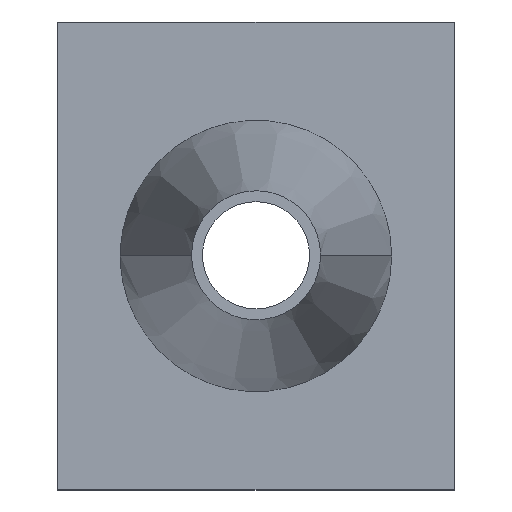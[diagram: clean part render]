
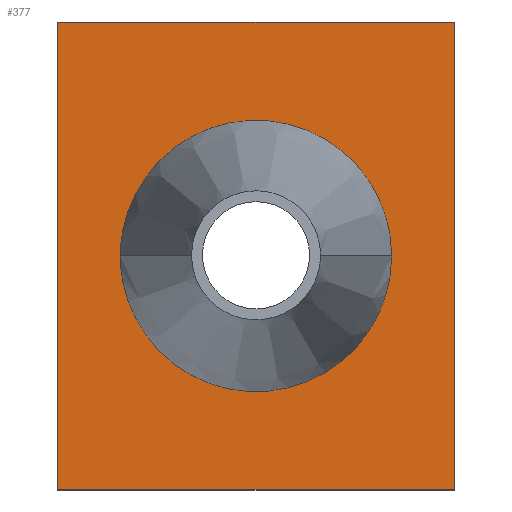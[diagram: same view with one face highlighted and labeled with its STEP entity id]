
A CAD part, top view. The second image highlights one B-rep face of the part: STEP entity #377.
In plain terms, the highlighted planar face has unit normal (0, 0, 1).
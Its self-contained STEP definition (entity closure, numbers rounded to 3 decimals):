
#167=CARTESIAN_POINT('Vertex',(0.,131.,3.)) ;
#174=CARTESIAN_POINT('Vertex',(0.,0.,3.)) ;
#177=CARTESIAN_POINT('Line Origine',(0.,65.5,3.)) ;
#198=CARTESIAN_POINT('Vertex',(111.,131.,3.)) ;
#201=CARTESIAN_POINT('Line Origine',(55.5,131.,3.)) ;
#222=CARTESIAN_POINT('Vertex',(111.,0.,3.)) ;
#225=CARTESIAN_POINT('Line Origine',(111.,65.5,3.)) ;
#242=CARTESIAN_POINT('Line Origine',(55.5,0.,3.)) ;
#324=CARTESIAN_POINT('Axis2P3D Location',(0.,0.,3.)) ;
#336=CARTESIAN_POINT('Control Point',(93.471,65.5,3.)) ;
#337=CARTESIAN_POINT('Control Point',(93.471,71.553,3.)) ;
#338=CARTESIAN_POINT('Control Point',(92.265,77.606,3.)) ;
#339=CARTESIAN_POINT('Control Point',(89.851,83.338,3.)) ;
#340=CARTESIAN_POINT('Control Point',(82.877,93.524,3.)) ;
#341=CARTESIAN_POINT('Control Point',(72.532,100.259,3.)) ;
#342=CARTESIAN_POINT('Control Point',(66.743,102.538,3.)) ;
#343=CARTESIAN_POINT('Control Point',(54.583,104.667,3.)) ;
#344=CARTESIAN_POINT('Control Point',(42.536,101.971,3.)) ;
#345=CARTESIAN_POINT('Control Point',(36.86,99.423,3.)) ;
#346=CARTESIAN_POINT('Control Point',(27.135,92.424,3.)) ;
#347=CARTESIAN_POINT('Control Point',(20.736,82.325,3.)) ;
#348=CARTESIAN_POINT('Control Point',(18.597,76.895,3.)) ;
#349=CARTESIAN_POINT('Control Point',(17.529,71.197,3.)) ;
#350=CARTESIAN_POINT('Control Point',(17.529,65.5,3.)) ;
#351=CARTESIAN_POINT('Vertex',(93.471,65.5,3.)) ;
#353=CARTESIAN_POINT('Vertex',(17.529,65.5,3.)) ;
#357=CARTESIAN_POINT('Control Point',(93.471,65.5,3.)) ;
#358=CARTESIAN_POINT('Control Point',(93.471,59.447,3.)) ;
#359=CARTESIAN_POINT('Control Point',(92.265,53.394,3.)) ;
#360=CARTESIAN_POINT('Control Point',(89.851,47.662,3.)) ;
#361=CARTESIAN_POINT('Control Point',(82.877,37.476,3.)) ;
#362=CARTESIAN_POINT('Control Point',(72.532,30.741,3.)) ;
#363=CARTESIAN_POINT('Control Point',(66.743,28.462,3.)) ;
#364=CARTESIAN_POINT('Control Point',(54.583,26.333,3.)) ;
#365=CARTESIAN_POINT('Control Point',(42.536,29.029,3.)) ;
#366=CARTESIAN_POINT('Control Point',(36.86,31.577,3.)) ;
#367=CARTESIAN_POINT('Control Point',(27.135,38.576,3.)) ;
#368=CARTESIAN_POINT('Control Point',(20.736,48.675,3.)) ;
#369=CARTESIAN_POINT('Control Point',(18.597,54.105,3.)) ;
#370=CARTESIAN_POINT('Control Point',(17.529,59.803,3.)) ;
#371=CARTESIAN_POINT('Control Point',(17.529,65.5,3.)) ;
#178=DIRECTION('Vector Direction',(0.,1.,0.)) ;
#202=DIRECTION('Vector Direction',(-1.,0.,0.)) ;
#226=DIRECTION('Vector Direction',(0.,1.,0.)) ;
#243=DIRECTION('Vector Direction',(1.,0.,0.)) ;
#325=DIRECTION('Axis2P3D Direction',(0.,0.,1.)) ;
#326=DIRECTION('Axis2P3D XDirection',(1.,0.,0.)) ;
#327=AXIS2_PLACEMENT_3D('Plane Axis2P3D',#324,#325,#326) ;
#330=ORIENTED_EDGE('',*,*,#181,.F.) ;
#331=ORIENTED_EDGE('',*,*,#246,.T.) ;
#332=ORIENTED_EDGE('',*,*,#229,.T.) ;
#333=ORIENTED_EDGE('',*,*,#205,.T.) ;
#374=ORIENTED_EDGE('',*,*,#355,.F.) ;
#375=ORIENTED_EDGE('',*,*,#372,.T.) ;
#376=FACE_BOUND('',#373,.T.) ;
#179=VECTOR('Line Direction',#178,1.) ;
#203=VECTOR('Line Direction',#202,1.) ;
#227=VECTOR('Line Direction',#226,1.) ;
#244=VECTOR('Line Direction',#243,1.) ;
#377=ADVANCED_FACE('PartBody',(#334,#376),#328,.T.) ;
#335=B_SPLINE_CURVE_WITH_KNOTS('',5,(#336,#337,#338,#339,#340,#341,#342,#343,#344,#345,#346,#347,#348,#349,#350),.UNSPECIFIED.,.F.,.U.,(6,3,3,3,6),(0.,32.54,65.084,97.629,128.257),.UNSPECIFIED.) ;
#356=B_SPLINE_CURVE_WITH_KNOTS('',5,(#357,#358,#359,#360,#361,#362,#363,#364,#365,#366,#367,#368,#369,#370,#371),.UNSPECIFIED.,.F.,.U.,(6,3,3,3,6),(0.,32.54,65.084,97.629,128.257),.UNSPECIFIED.) ;
#181=EDGE_CURVE('',#175,#168,#180,.T.) ;
#205=EDGE_CURVE('',#199,#168,#204,.T.) ;
#229=EDGE_CURVE('',#223,#199,#228,.T.) ;
#246=EDGE_CURVE('',#175,#223,#245,.T.) ;
#355=EDGE_CURVE('',#352,#354,#335,.T.) ;
#372=EDGE_CURVE('',#352,#354,#356,.T.) ;
#329=EDGE_LOOP('',(#330,#331,#332,#333)) ;
#373=EDGE_LOOP('',(#374,#375)) ;
#334=FACE_OUTER_BOUND('',#329,.T.) ;
#180=LINE('Line',#177,#179) ;
#204=LINE('Line',#201,#203) ;
#228=LINE('Line',#225,#227) ;
#245=LINE('Line',#242,#244) ;
#328=PLANE('',#327) ;
#168=VERTEX_POINT('',#167) ;
#175=VERTEX_POINT('',#174) ;
#199=VERTEX_POINT('',#198) ;
#223=VERTEX_POINT('',#222) ;
#352=VERTEX_POINT('',#351) ;
#354=VERTEX_POINT('',#353) ;
